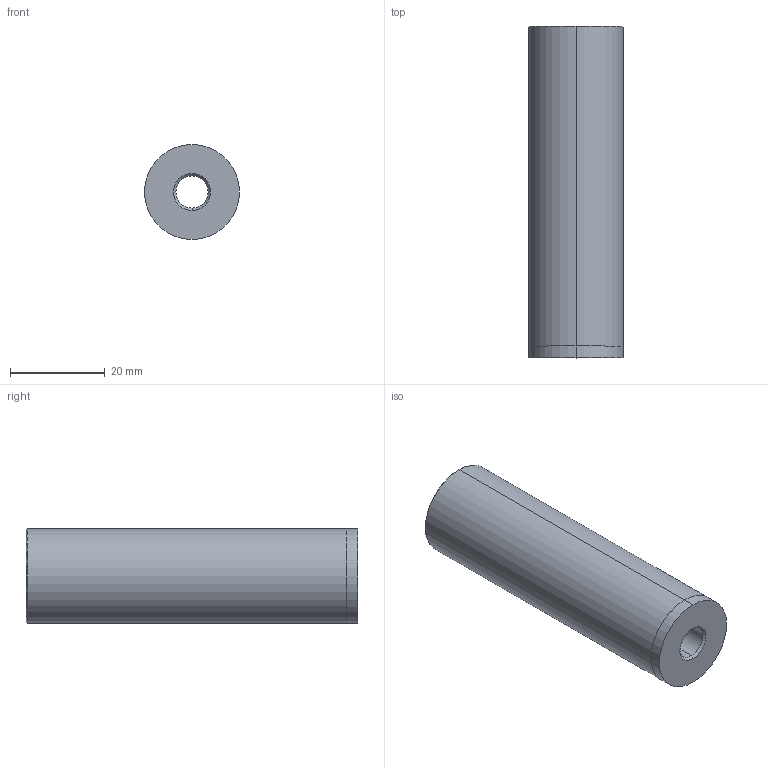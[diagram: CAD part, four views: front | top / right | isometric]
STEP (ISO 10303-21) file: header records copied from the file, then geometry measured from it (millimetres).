
FILE_DESCRIPTION (( 'STEP AP214' ), '1' );
FILE_NAME ('R05_20x070.STEP', '2020-03-20T00:02:16', ( '' ), ( '' ), 'SwSTEP 2.0', 'SolidWorks 2014', '' );
FILE_SCHEMA (( 'AUTOMOTIVE_DESIGN' ));
Length unit declared in the file: millimetre
Products named in the file (1): R05_20x070
Bounding box: 20.02 x 70 x 20.02 mm (x, y, z)
Volume: 9865.7 mm3; surface area: 8047.7 mm2
Topology: 1 solids, 1 shells, 19 faces, 38 edges, 22 vertices
Faces by surface type: cone 8, cylinder 8, plane 3
Entity records: 554 total; most frequent: DIRECTION 100, CARTESIAN_POINT 80, ORIENTED_EDGE 76, AXIS2_PLACEMENT_3D 42, EDGE_CURVE 38, EDGE_LOOP 22, VERTEX_POINT 22, CIRCLE 22
